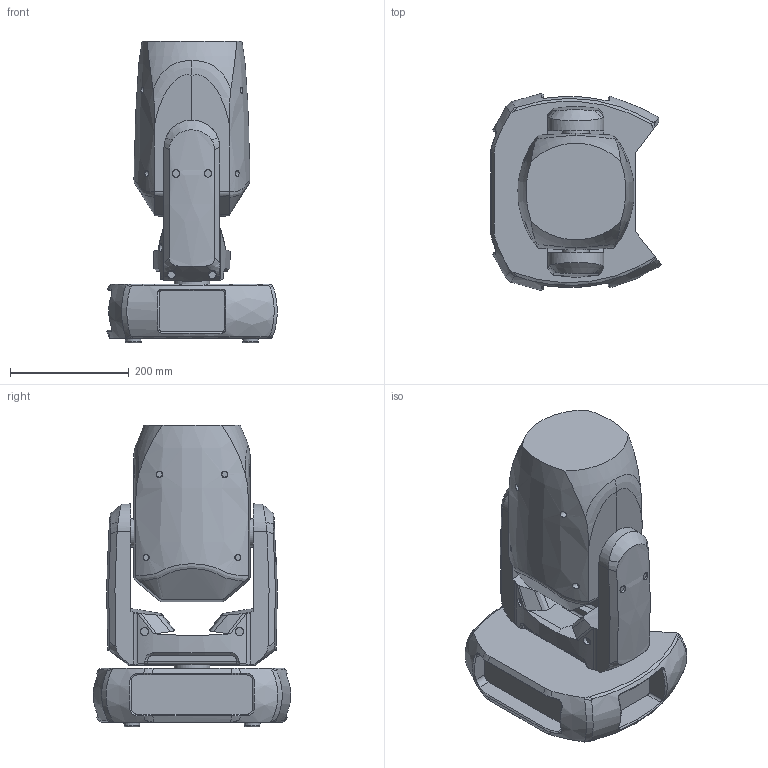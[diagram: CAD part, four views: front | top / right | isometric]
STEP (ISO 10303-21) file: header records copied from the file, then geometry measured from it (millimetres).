
FILE_DESCRIPTION(/* description */ ('Unknown'),/* implementation_level */ '2;1');
FILE_NAME(/* name */ '3D_Robin ProMotion',/* time_stamp */ '2020-06-25T12:00:39+02:00',/* author */ ('Ing.Rostislav HĂˇba'),/* organization */ ('ROBE lighting'),/* preprocessor_version */ 'ST-DEVELOPER v16.7',/* originating_system */ 'Solid Edge',/* authorisation */ 'Unknown');
FILE_SCHEMA (('AUTOMOTIVE_DESIGN {1 0 10303 214 3 1 1}'));
Length unit declared in the file: millimetre
Products named in the file (4): Robin ProMotion - Zjednodušená Sestava; Zjednodušená základna; Zjednodušené ramena; Zjednodušena hlava
Assembly tree (3 placements, depth 2):
  Robin ProMotion - Zjednodušená Sestava
    Zjednodušená základna
    Zjednodušené ramena
    Zjednodušena hlava
Bounding box: 287.16 x 332.46 x 508.47 mm (x, y, z)
Volume: 18813754.6 mm3; surface area: 807894 mm2
Topology: 4 solids, 4 shells, 264 faces, 682 edges, 447 vertices
Faces by surface type: bspline 110, plane 77, cylinder 37, cone 30, torus 10
Full cylindrical faces by diameter (mm): 45 x3, 60 x1
Entity records: 13952 total; most frequent: CARTESIAN_POINT 8820, ORIENTED_EDGE 1234, DIRECTION 633, EDGE_CURVE 617, VERTEX_POINT 418, B_SPLINE_CURVE_WITH_KNOTS 398, EDGE_LOOP 325, FACE_BOUND 325
